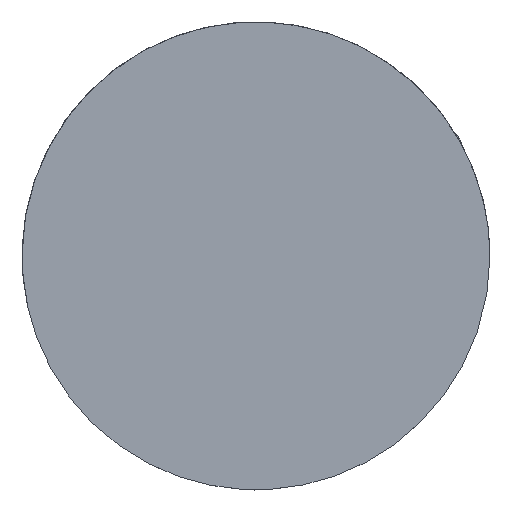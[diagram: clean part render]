
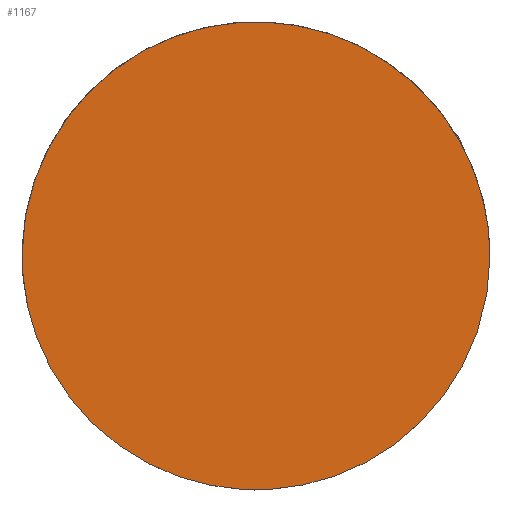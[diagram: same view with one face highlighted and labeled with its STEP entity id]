
A CAD part, top view. The second image highlights one B-rep face of the part: STEP entity #1167.
In plain terms, the highlighted planar face has unit normal (0, 0, 1).
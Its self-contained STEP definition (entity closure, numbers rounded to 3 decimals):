
#730=PLANE('',#6229);
#1167=ADVANCED_FACE('',(#1525),#730,.T.);
#1525=FACE_OUTER_BOUND('',#1898,.T.);
#1898=EDGE_LOOP('',(#3564));
#3564=ORIENTED_EDGE('',*,*,#4529,.F.);
#4529=EDGE_CURVE('',#5598,#5598,#4954,.T.);
#4954=(
BOUNDED_CURVE()
B_SPLINE_CURVE(2,(#39972,#39973,#39974,#39975,#39976,#39977,#39978,#39979,
#39980),.UNSPECIFIED.,.T.,.F.)
B_SPLINE_CURVE_WITH_KNOTS((3,2,2,2,3),(0.,785.398,1570.796,
2356.194,3141.593),.UNSPECIFIED.)
CURVE()
GEOMETRIC_REPRESENTATION_ITEM()
RATIONAL_B_SPLINE_CURVE((1.,0.707,1.,0.707,1.,0.707,
1.,0.707,1.))
REPRESENTATION_ITEM('')
);
#5598=VERTEX_POINT('',#39971);
#6229=AXIS2_PLACEMENT_3D('',#39970,#6561,$);
#6561=DIRECTION('',(0.,0.,1.));
#39970=CARTESIAN_POINT('',(2527.461,1116.676,31.845));
#39971=CARTESIAN_POINT('',(3652.461,491.676,31.845));
#39972=CARTESIAN_POINT('',(3652.461,491.676,31.845));
#39973=CARTESIAN_POINT('',(3652.461,-8.324,31.845));
#39974=CARTESIAN_POINT('',(3152.461,-8.324,31.845));
#39975=CARTESIAN_POINT('',(2652.461,-8.324,31.845));
#39976=CARTESIAN_POINT('',(2652.461,491.676,31.845));
#39977=CARTESIAN_POINT('',(2652.461,991.676,31.845));
#39978=CARTESIAN_POINT('',(3152.461,991.676,31.845));
#39979=CARTESIAN_POINT('',(3652.461,991.676,31.845));
#39980=CARTESIAN_POINT('',(3652.461,491.676,31.845));
